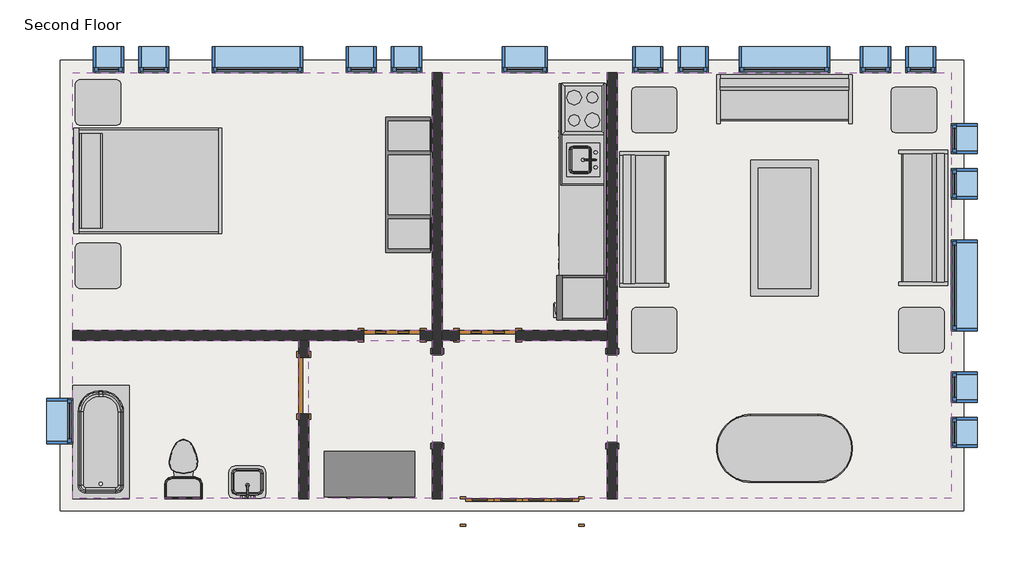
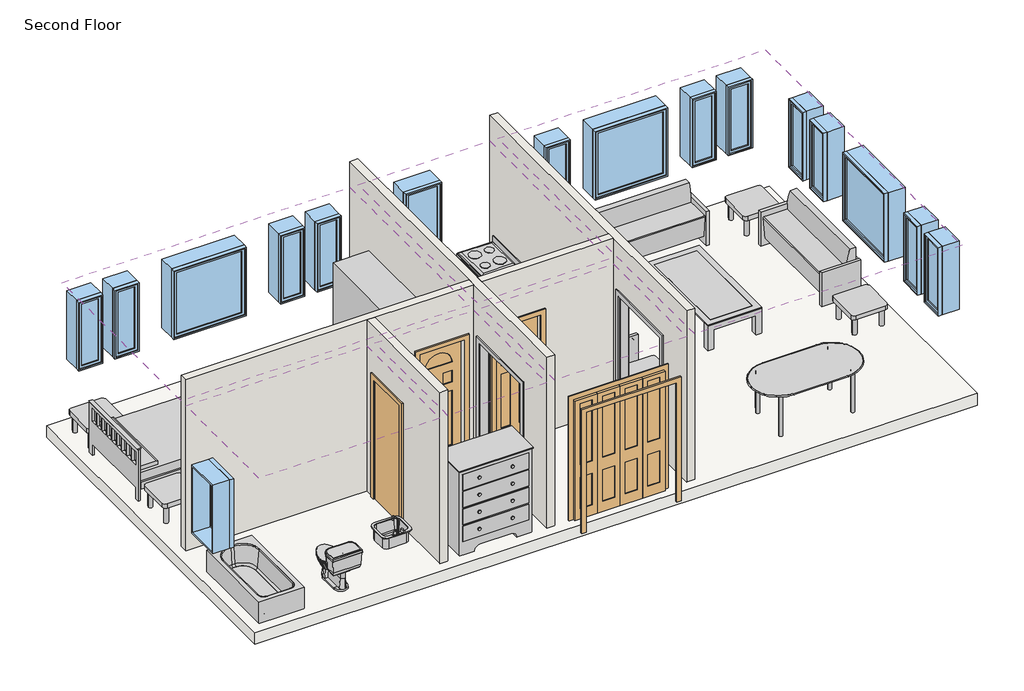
# One storey, incomplete: 17 windows, 15 furniture elements, 6 coverings, 6 proxies, 4 doors, 4 flow terminals, 4 walls, 1 slab.
"""IFC4 building model written with IfcOpenShell, lengths in millimetres."""

from ifc_helpers import new_model, si_unit, frame, origin, place, context, project, spatial, polyline, outline, extrude, faceted_brep, transform, mapped, element, save
from components import m_cook_top_4_unit2_0615_x_500mm_249f3515, m_dishwasher_610_x_610_x_875mm_54ecfc4c, m_kitchenette_medium_1372mm_e05c6bec, m_passage_opening_cased_1220_x_2134mm_87a8d9c2, m_refrigerator_600_x_660mm_a466bf94, m_bifold_4_panel_1525_x_2134mm_1ddae71f, m_single_decorative_2_0762_x_2134mm_0d0af7cb, m_single_decorative_2_0762_x_2134mm_2fe67c8e, m_single_flush_0762_x_2134mm_0d89e411, m_sink_kitchen_island_450_x_450mm_f969cf2d, m_sink_vanity_square_500_x_440mm_1e229b74, m_toilet_domestic_3d_m_toilet_domestic_3d_5cb52bd4, m_toilet_domestic_3d_m_toilet_domestic_3d_183bbd19, m_tub_rectangular_3d_m_tub_rectangular_3d_3a981ad5, m_bed_shaker_1422_x_1981mm_double_096e7f55, m_counter_top_w_sink_hole_600mm_depth_1fb56bb9, m_dresser_1220_x_1525_x_0610mm_18e1f140, m_entertainment_center_1830_x_1830_x_0610mm_f77a9b93, m_sofa_1830mm_58d08fc1, m_table_coffee_0915_x_1830_x_0457mm_134cd960, m_table_dining_oval_0915_x_1830mm_a7cfbe21, m_table_end_cb6ea12e, m_fixed_0406_x_1220mm_57fee329, m_fixed_0406_x_1220mm_85c28f40, m_fixed_0610_x_1220mm_2c28ef1d, m_fixed_1220_x_1220mm_e08ff7af

model = new_model("IFC4")

# Units and contexts
model_context = context("Model", 3, world=origin())
ifc_project = project(units=[si_unit("LENGTHUNIT", "METRE", prefix="MILLI")], contexts=[model_context])

# Site, building, storey
site = spatial("IfcSite", under=ifc_project)
building = spatial("IfcBuilding", under=site)
storey = spatial("IfcBuildingStorey", under=building, Name="Second Floor", Elevation=3048.0)

# Proxies
placement = place(None, origin())
m_cook_top_4_unit2_0615_x_500mm_shape = m_cook_top_4_unit2_0615_x_500mm_249f3515(model_context)
element("IfcBuildingElementProxy", 1, Name="M_Cook Top-4 Unit2 : 0615 x 500mm", ObjectType="M_Cook Top-4 Unit2 : 0615 x 500mm", at=placement, inside=storey, context=model_context, shape_type="MappedRepresentation", body=[
    mapped(m_cook_top_4_unit2_0615_x_500mm_shape, transform((-8054.9916203, 1914.054661, 3048.0), x_axis=(0.0, -1.0, 0.0), y_axis=(1.0, 0.0, 0.0), z_axis=(0.0, 0.0, 1.0))),
])
m_dishwasher_610_x_610_x_875mm_shape = m_dishwasher_610_x_610_x_875mm_54ecfc4c(model_context)
element("IfcBuildingElementProxy", 2, Name="M_Dishwasher : 610 x 610 x 875mm", ObjectType="M_Dishwasher : 610 x 610 x 875mm", at=placement, inside=storey, context=model_context, shape_type="MappedRepresentation", body=[
    mapped(m_dishwasher_610_x_610_x_875mm_shape, transform((-8321.6411851, 353.5721295, 3048.0), x_axis=(0.0, -1.0, 0.0), y_axis=(1.0, 0.0, 0.0), z_axis=(0.0, 0.0, 1.0))),
])
m_kitchenette_medium_1372mm_shape = m_kitchenette_medium_1372mm_e05c6bec(model_context)
element("IfcBuildingElementProxy", 3, Name="M_Kitchenette - Medium : 1372mm", ObjectType="M_Kitchenette - Medium : 1372mm", at=placement, inside=storey, context=model_context, shape_type="MappedRepresentation", body=[
    mapped(m_kitchenette_medium_1372mm_shape, transform((-7749.9916203, 1589.7923659, 3048.0), x_axis=(0.0, -1.0, 0.0), y_axis=(1.0, 0.0, 0.0), z_axis=(0.0, 0.0, 1.0))),
])
m_passage_opening_cased_1220_x_2134mm_shape = m_passage_opening_cased_1220_x_2134mm_87a8d9c2(model_context)
element("IfcBuildingElementProxy", 4, Name="M_Passage Opening-Cased : 1220 x 2134mm", ObjectType="M_Passage Opening-Cased : 1220 x 2134mm", at=placement, inside=storey, context=model_context, shape_type="MappedRepresentation", body=[
    mapped(m_passage_opening_cased_1220_x_2134mm_shape, transform((-7665.3416203, -1982.6925047, 3048.0), x_axis=(0.0, 1.0, 0.0), y_axis=(-1.0, 0.0, 0.0), z_axis=(0.0, 0.0, 1.0))),
])
element("IfcBuildingElementProxy", 5, Name="M_Passage Opening-Cased : 1220 x 2134mm", ObjectType="M_Passage Opening-Cased : 1220 x 2134mm", at=placement, inside=storey, context=model_context, shape_type="MappedRepresentation", body=[
    mapped(m_passage_opening_cased_1220_x_2134mm_shape, transform((-10019.0916203, -1999.0698181, 3048.0), x_axis=(0.0, -1.0, 0.0), y_axis=(1.0, 0.0, 0.0), z_axis=(0.0, 0.0, 1.0))),
])
m_refrigerator_600_x_660mm_shape = m_refrigerator_600_x_660mm_a466bf94(model_context)
element("IfcBuildingElementProxy", 6, Name="M_Refrigerator : 600 x 660mm", ObjectType="M_Refrigerator : 600 x 660mm", at=placement, inside=storey, context=model_context, shape_type="MappedRepresentation", body=[
    mapped(m_refrigerator_600_x_660mm_shape, transform((-8046.2067105, -687.7464817, 3048.0), x_axis=(0.0, -1.0, 0.0), y_axis=(1.0, 0.0, 0.0), z_axis=(0.0, 0.0, 1.0))),
])

# Coverings
element("IfcCovering", 7, ObjectType="Plain", at=placement, inside=storey, context=model_context, shape_type="SweptSolid", body=[
    extrude(outline(polyline([(-14935.3416203, 2406.1188386), (-10086.8416203, 2406.1188386), (-10086.8416203, -1070.3811614), (-14935.3416203, -1070.3811614), (-14935.3416203, 2406.1188386)])), frame((0.0, 0.0, 5638.0), z_axis=(0.0, 0.0, 1.0), x_axis=(1.0, 0.0, 0.0)), (0.0, 0.0, 1.0), 57.0),
])
element("IfcCovering", 8, ObjectType="Plain", at=placement, inside=storey, context=model_context, shape_type="SweptSolid", body=[
    extrude(outline(polyline([(-9951.3416203, -1070.3811614), (-9951.3416203, 2406.1188386), (-7733.0916203, 2406.1188386), (-7733.0916203, -1070.3811614), (-9951.3416203, -1070.3811614)])), frame((0.0, 0.0, 5638.0), z_axis=(0.0, 0.0, 1.0), x_axis=(1.0, 0.0, 0.0)), (0.0, 0.0, 1.0), 57.0),
])
element("IfcCovering", 9, ObjectType="Plain", at=placement, inside=storey, context=model_context, shape_type="SweptSolid", body=[
    extrude(outline(polyline([(-7597.5916203, -3339.8811614), (-7597.5916203, 2406.1188386), (-3093.3416203, 2406.1188386), (-3093.3416203, -3339.8811614), (-7597.5916203, -3339.8811614)])), frame((0.0, 0.0, 5638.0), z_axis=(0.0, 0.0, 1.0), x_axis=(1.0, 0.0, 0.0)), (0.0, 0.0, 1.0), 57.0),
])
element("IfcCovering", 10, ObjectType="Plain", at=placement, inside=storey, context=model_context, shape_type="SweptSolid", body=[
    extrude(outline(polyline([(-7733.0916203, -3339.8811614), (-9951.3416203, -3339.8811614), (-9951.3416203, -1205.8811614), (-7733.0916203, -1205.8811614), (-7733.0916203, -3339.8811614)])), frame((0.0, 0.0, 5638.0), z_axis=(0.0, 0.0, 1.0), x_axis=(1.0, 0.0, 0.0)), (0.0, 0.0, 1.0), 57.0),
])
element("IfcCovering", 11, ObjectType="Plain", at=placement, inside=storey, context=model_context, shape_type="SweptSolid", body=[
    extrude(outline(polyline([(-11887.3416203, -1205.8811614), (-11887.3416203, -3339.8811614), (-14935.3416203, -3339.8811614), (-14935.3416203, -1205.8811614), (-11887.3416203, -1205.8811614)])), frame((0.0, 0.0, 5638.0), z_axis=(0.0, 0.0, 1.0), x_axis=(1.0, 0.0, 0.0)), (0.0, 0.0, 1.0), 57.0),
])
element("IfcCovering", 12, ObjectType="Plain", at=placement, inside=storey, context=model_context, shape_type="SweptSolid", body=[
    extrude(outline(polyline([(-10086.8416203, -3339.8811614), (-11751.8416203, -3339.8811614), (-11751.8416203, -1205.8811614), (-10086.8416203, -1205.8811614), (-10086.8416203, -3339.8811614)])), frame((0.0, 0.0, 5638.0), z_axis=(0.0, 0.0, 1.0), x_axis=(1.0, 0.0, 0.0)), (0.0, 0.0, 1.0), 57.0),
])

# Doors
m_bifold_4_panel_1525_x_2134mm_shape = m_bifold_4_panel_1525_x_2134mm_1ddae71f(model_context)
element("IfcDoor", 13, ObjectType="M_Bifold-4 Panel : 1525 x 2134mm", at=placement, inside=storey, context=model_context, shape_type="MappedRepresentation", body=[
    mapped(m_bifold_4_panel_1525_x_2134mm_shape, transform((-8876.0916203, -3514.8811614, 3048.0), x_axis=(1.0, 0.0, 0.0), y_axis=(0.0, 1.0, 0.0), z_axis=(0.0, 0.0, 1.0))),
])
m_single_decorative_2_0762_x_2134mm_shape = m_single_decorative_2_0762_x_2134mm_0d0af7cb(model_context)
element("IfcDoor", 14, ObjectType="M_Single-Decorative 2 : 0762 x 2134mm", at=placement, inside=storey, context=model_context, shape_type="MappedRepresentation", body=[
    mapped(m_single_decorative_2_0762_x_2134mm_shape, transform((-9342.3416203, -1138.1311614, 3048.0), x_axis=(-1.0, 0.0, 0.0), y_axis=(0.0, -1.0, 0.0), z_axis=(0.0, 0.0, 1.0))),
])
m_single_decorative_2_0762_x_2134mm_2_shape = m_single_decorative_2_0762_x_2134mm_2fe67c8e(model_context)
element("IfcDoor", 15, ObjectType="M_Single-Decorative 2 : 0762 x 2134mm", at=placement, inside=storey, context=model_context, shape_type="MappedRepresentation", body=[
    mapped(m_single_decorative_2_0762_x_2134mm_2_shape, transform((-10629.0916203, -1138.1311614, 3048.0), x_axis=(1.0, 0.0, 0.0), y_axis=(0.0, 1.0, 0.0), z_axis=(0.0, 0.0, 1.0))),
])
m_single_flush_0762_x_2134mm_shape = m_single_flush_0762_x_2134mm_0d89e411(model_context)
element("IfcDoor", 16, ObjectType="M_Single-Flush : 0762 x 2134mm", at=placement, inside=storey, context=model_context, shape_type="MappedRepresentation", body=[
    mapped(m_single_flush_0762_x_2134mm_shape, transform((-11819.5916203, -1815.8811614, 3048.0), x_axis=(0.0, 1.0, 0.0), y_axis=(-1.0, 0.0, 0.0), z_axis=(0.0, 0.0, 1.0))),
])

# Flow terminals
m_sink_kitchen_island_450_x_450mm_shape = m_sink_kitchen_island_450_x_450mm_f969cf2d(model_context)
element("IfcFlowTerminal", 17, ObjectType="M_Sink Kitchen-Island : 450 x 450mm", at=placement, inside=storey, context=model_context, shape_type="MappedRepresentation", body=[
    mapped(m_sink_kitchen_island_450_x_450mm_shape, transform((-8057.3370214, 1243.7439015, 3048.0), x_axis=(0.0, -1.0, 0.0), y_axis=(1.0, 0.0, 0.0), z_axis=(0.0, 0.0, 1.0))),
])
m_sink_vanity_square_500_x_440mm_shape = m_sink_vanity_square_500_x_440mm_1e229b74(model_context)
element("IfcFlowTerminal", 18, ObjectType="M_Sink Vanity-Square : 500 x 440mm", at=placement, inside=storey, context=model_context, shape_type="MappedRepresentation", body=[
    mapped(m_sink_vanity_square_500_x_440mm_shape, transform((-12563.5523798, -3158.1107603, 3048.0), x_axis=(-1.0, 0.0, 0.0), y_axis=(0.0, -1.0, 0.0), z_axis=(0.0, 0.0, 1.0))),
])
m_toilet_domestic_3d_m_toilet_domestic_3d_shape = m_toilet_domestic_3d_m_toilet_domestic_3d_5cb52bd4(model_context)
m_toilet_domestic_3d_m_toilet_domestic_3d_2_shape = m_toilet_domestic_3d_m_toilet_domestic_3d_183bbd19(model_context)
element("IfcFlowTerminal", 19, ObjectType="M_Toilet-Domestic-3D : M_Toilet-Domestic-3D", at=placement, inside=storey, context=model_context, shape_type="MappedRepresentation", body=[
    mapped(m_toilet_domestic_3d_m_toilet_domestic_3d_shape, transform((-13440.7376477, -2845.185134, 3048.0), x_axis=(-1.0000000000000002, 0.0, 0.0), y_axis=(0.0, -1.0000000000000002, 0.0), z_axis=(0.0, 0.0, 1.0))),
    mapped(m_toilet_domestic_3d_m_toilet_domestic_3d_2_shape, transform((-13440.7376477, -2845.185134, 3048.0), x_axis=(-1.0000000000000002, 0.0, 0.0), y_axis=(0.0, -1.0000000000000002, 0.0), z_axis=(0.0, 0.0, 1.0))),
])
m_tub_rectangular_3d_m_tub_rectangular_3d_shape = m_tub_rectangular_3d_m_tub_rectangular_3d_3a981ad5(model_context)
element("IfcFlowTerminal", 20, ObjectType="M_Tub-Rectangular-3D : M_Tub-Rectangular-3D", at=placement, inside=storey, context=model_context, shape_type="MappedRepresentation", body=[
    mapped(m_tub_rectangular_3d_m_tub_rectangular_3d_shape, transform((-15110.3416203, -2229.2781927, 3048.0), x_axis=(0.0, 1.0, 0.0), y_axis=(-1.0, 0.0, 0.0), z_axis=(0.0, 0.0, 1.0))),
])

# Furniture
m_bed_shaker_1422_x_1981mm_double_shape = m_bed_shaker_1422_x_1981mm_double_096e7f55(model_context)
element("IfcFurniture", 21, ObjectType="M_Bed-Shaker : 1422 x 1981mm - Double", at=placement, inside=storey, context=model_context, shape_type="MappedRepresentation", body=[
    mapped(m_bed_shaker_1422_x_1981mm_double_shape, transform((-14905.3416203, 963.9688386, 3048.0), x_axis=(0.0, 1.0000000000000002, 0.0), y_axis=(-1.0000000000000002, 0.0, 0.0), z_axis=(0.0, 0.0, 1.0))),
])
m_counter_top_w_sink_hole_600mm_depth_shape = m_counter_top_w_sink_hole_600mm_depth_1fb56bb9(model_context)
element("IfcFurniture", 22, ObjectType="M_Counter Top w Sink Hole : 600mm Depth", at=placement, inside=storey, context=model_context, shape_type="MappedRepresentation", body=[
    mapped(m_counter_top_w_sink_hole_600mm_depth_shape, transform((-7749.9916203, 1056.5923659, 3048.0), x_axis=(0.0, -1.0, 0.0), y_axis=(1.0, 0.0, 0.0), z_axis=(0.0, 0.0, 1.0))),
])
m_dresser_1220_x_1525_x_0610mm_shape = m_dresser_1220_x_1525_x_0610mm_18e1f140(model_context)
element("IfcFurniture", 23, ObjectType="M_Dresser : 1220 x 1525 x 0610mm", at=placement, inside=storey, context=model_context, shape_type="MappedRepresentation", body=[
    mapped(m_dresser_1220_x_1525_x_0610mm_shape, transform((-10667.6483605, -2647.7182073, 3048.0), x_axis=(1.0, 0.0, 0.0), y_axis=(0.0, 1.0, 0.0), z_axis=(0.0, 0.0, 1.0))),
])
m_entertainment_center_1830_x_1830_x_0610mm_shape = m_entertainment_center_1830_x_1830_x_0610mm_f77a9b93(model_context)
element("IfcFurniture", 24, ObjectType="M_Entertainment center : 1830 x 1830 x 0610mm", at=placement, inside=storey, context=model_context, shape_type="MappedRepresentation", body=[
    mapped(m_entertainment_center_1830_x_1830_x_0610mm_shape, transform((-10818.2416203, 891.1188386, 3048.0), x_axis=(0.0, 1.0, 0.0), y_axis=(-1.0, 0.0, 0.0), z_axis=(0.0, 0.0, 1.0))),
])
m_sofa_1830mm_shape = m_sofa_1830mm_58d08fc1(model_context)
element("IfcFurniture", 25, ObjectType="M_Sofa : 1830mm", at=placement, inside=storey, context=model_context, shape_type="MappedRepresentation", body=[
    mapped(m_sofa_1830mm_shape, transform((-5413.7121121, 1899.9647403, 3048.0), x_axis=(1.0, 0.0, 0.0), y_axis=(0.0, 1.0, 0.0), z_axis=(0.0, 0.0, 1.0))),
])
element("IfcFurniture", 26, ObjectType="M_Sofa : 1830mm", at=placement, inside=storey, context=model_context, shape_type="MappedRepresentation", body=[
    mapped(m_sofa_1830mm_shape, transform((-3617.1736471, 517.2688343, 3048.0), x_axis=(0.0, -1.0, 0.0), y_axis=(1.0, 0.0, 0.0), z_axis=(0.0, 0.0, 1.0))),
])
element("IfcFurniture", 27, ObjectType="M_Sofa : 1830mm", at=placement, inside=storey, context=model_context, shape_type="MappedRepresentation", body=[
    mapped(m_sofa_1830mm_shape, transform((-7088.437522, 355.7483468, 3048.0), x_axis=(0.0, 1.0, 0.0), y_axis=(-1.0, 0.0, 0.0), z_axis=(0.0, 0.0, 1.0))),
])
m_table_coffee_0915_x_1830_x_0457mm_shape = m_table_coffee_0915_x_1830_x_0457mm_134cd960(model_context)
element("IfcFurniture", 28, ObjectType="M_Table-Coffee : 0915 x 1830 x 0457mm", at=placement, inside=storey, context=model_context, shape_type="MappedRepresentation", body=[
    mapped(m_table_coffee_0915_x_1830_x_0457mm_shape, transform((-5248.1305425, 287.8530719, 3048.0), x_axis=(0.0, 1.0, 0.0), y_axis=(-1.0, 0.0, 0.0), z_axis=(0.0, 0.0, 1.0))),
])
m_table_dining_oval_0915_x_1830mm_shape = m_table_dining_oval_0915_x_1830mm_a7cfbe21(model_context)
element("IfcFurniture", 29, ObjectType="M_Table-Dining Oval : 0915 x 1830mm", at=placement, inside=storey, context=model_context, shape_type="MappedRepresentation", body=[
    mapped(m_table_dining_oval_0915_x_1830mm_shape, transform((-4941.5219482, -2305.2828007, 3048.0), x_axis=(1.0, 0.0, 0.0), y_axis=(0.0, 1.0, 0.0), z_axis=(0.0, 0.0, 1.0))),
])
m_table_end_shape = m_table_end_cb6ea12e(model_context)
element("IfcFurniture", 30, ObjectType="M_Table-End : 0610 x 0160mm altered height", at=placement, inside=storey, context=model_context, shape_type="MappedRepresentation", body=[
    mapped(m_table_end_shape, transform((-7407.0752506, 1748.7188386, 3048.0), x_axis=(1.0, 0.0, 0.0), y_axis=(0.0, 1.0, 0.0), z_axis=(0.0, 0.0, 1.0))),
])
element("IfcFurniture", 31, ObjectType="M_Table-End : 0610 x 0160mm altered height", at=placement, inside=storey, context=model_context, shape_type="MappedRepresentation", body=[
    mapped(m_table_end_shape, transform((-3907.0752506, 1748.7188386, 3048.0), x_axis=(1.0, 0.0, 0.0), y_axis=(0.0, 1.0, 0.0), z_axis=(0.0, 0.0, 1.0))),
])
element("IfcFurniture", 32, ObjectType="M_Table-End : 0610 x 0160mm altered height", at=placement, inside=storey, context=model_context, shape_type="MappedRepresentation", body=[
    mapped(m_table_end_shape, transform((-3807.0752506, -1222.7811614, 3048.0), x_axis=(1.0, 0.0, 0.0), y_axis=(0.0, 1.0, 0.0), z_axis=(0.0, 0.0, 1.0))),
])
element("IfcFurniture", 33, ObjectType="M_Table-End : 0610 x 0160mm altered height", at=placement, inside=storey, context=model_context, shape_type="MappedRepresentation", body=[
    mapped(m_table_end_shape, transform((-7407.0752506, -1222.7811614, 3048.0), x_axis=(1.0, 0.0, 0.0), y_axis=(0.0, 1.0, 0.0), z_axis=(0.0, 0.0, 1.0))),
])
element("IfcFurniture", 34, ObjectType="M_Table-End : 0610 x 0160mm altered height", at=placement, inside=storey, context=model_context, shape_type="MappedRepresentation", body=[
    mapped(m_table_end_shape, transform((-14899.0752506, -351.2811614, 3048.0), x_axis=(1.0, 0.0, 0.0), y_axis=(0.0, 1.0, 0.0), z_axis=(0.0, 0.0, 1.0))),
])
element("IfcFurniture", 35, ObjectType="M_Table-End : 0610 x 0160mm altered height", at=placement, inside=storey, context=model_context, shape_type="MappedRepresentation", body=[
    mapped(m_table_end_shape, transform((-14899.0752506, 1848.7188386, 3048.0), x_axis=(1.0, 0.0, 0.0), y_axis=(0.0, 1.0, 0.0), z_axis=(0.0, 0.0, 1.0))),
])

# Slab
element("IfcSlab", 36, ObjectType="160mm Concrete With 50mm Metal Deck", at=placement, inside=storey, context=model_context, shape_type="SweptSolid", body=[
    extrude(outline(polyline([(-2928.3416203, 2571.1188386), (-2928.3416203, -3504.8811614), (-15100.3416203, -3504.8811614), (-15100.3416203, 2571.1188386), (-2928.3416203, 2571.1188386)])), frame((0.0, 0.0, 2838.0), z_axis=(0.0, 0.0, 1.0), x_axis=(1.0, 0.0, 0.0)), (0.0, 0.0, 1.0), 210.0),
])

# Walls
element("IfcWall", 37, ObjectType="Interior - 135mm Partition (2-hr)", at=placement, inside=storey, context=model_context, shape_type="Brep", body=[
    faceted_brep([(-7733.0916203, 2406.1188386, 3048.0), (-7733.0916203, -1070.3811614, 3048.0), (-7733.0916203, -1205.8811614, 3048.0), (-7733.0916203, -1380.8811614, 3048.0), (-7733.0916203, -1380.8811614, 5182.0), (-7733.0916203, -2600.8811614, 5182.0), (-7733.0916203, -2600.8811614, 3048.0), (-7733.0916203, -3339.8811614, 3048.0), (-7733.0916203, -3339.8811614, 6096.0), (-7733.0916203, -1205.8811614, 6096.0), (-7733.0916203, -1070.3811614, 6096.0), (-7733.0916203, 2406.1188386, 6096.0), (-7597.5916203, -1380.8811614, 5182.0), (-7597.5916203, -1380.8811614, 3048.0), (-7597.5916203, 2406.1188386, 3048.0), (-7597.5916203, 2406.1188386, 6096.0), (-7597.5916203, -3339.8811614, 6096.0), (-7597.5916203, -3339.8811614, 3048.0), (-7597.5916203, -2600.8811614, 3048.0), (-7597.5916203, -2600.8811614, 5182.0)], [[[0, 1, 2, 3, 4, 5, 6, 7, 8, 9, 10, 11]], [[12, 13, 14, 15, 16, 17, 18, 19]], [[18, 17, 7, 6]], [[14, 13, 3, 2, 1, 0]], [[11, 10, 9, 8, 16, 15]], [[6, 5, 19, 18]], [[4, 3, 13, 12]], [[5, 4, 12, 19]], [[0, 11, 15, 14]], [[8, 7, 17, 16]]]),
])
element("IfcWall", 38, ObjectType="Interior - 135mm Partition (2-hr)", at=placement, inside=storey, context=model_context, shape_type="Brep", body=[
    faceted_brep([(-10086.8416203, -2600.8811614, 5182.0), (-10086.8416203, -2600.8811614, 3048.0), (-10086.8416203, -3339.8811614, 3048.0), (-10086.8416203, -3339.8811614, 6096.0), (-10086.8416203, -1205.8811614, 6096.0), (-10086.8416203, -1070.3811614, 6096.0), (-10086.8416203, 2406.1188386, 6096.0), (-10086.8416203, 2406.1188386, 3048.0), (-10086.8416203, -1070.3811614, 3048.0), (-10086.8416203, -1205.8811614, 3048.0), (-10086.8416203, -1380.8811614, 3048.0), (-10086.8416203, -1380.8811614, 5182.0), (-9951.3416203, -3339.8811614, 3048.0), (-9951.3416203, -2600.8811614, 3048.0), (-9951.3416203, -2600.8811614, 5182.0), (-9951.3416203, -1380.8811614, 5182.0), (-9951.3416203, -1380.8811614, 3048.0), (-9951.3416203, -1205.8811614, 3048.0), (-9951.3416203, -1070.3811614, 3048.0), (-9951.3416203, 2406.1188386, 3048.0), (-9951.3416203, 2406.1188386, 6096.0), (-9951.3416203, -1070.3811614, 6096.0), (-9951.3416203, -1205.8811614, 6096.0), (-9951.3416203, -3339.8811614, 6096.0)], [[[0, 1, 2, 3, 4, 5, 6, 7, 8, 9, 10, 11]], [[12, 13, 14, 15, 16, 17, 18, 19, 20, 21, 22, 23]], [[2, 1, 13, 12]], [[10, 9, 8, 7, 19, 18, 17, 16]], [[6, 5, 4, 3, 23, 22, 21, 20]], [[16, 15, 11, 10]], [[14, 13, 1, 0]], [[15, 14, 0, 11]], [[7, 6, 20, 19]], [[3, 2, 12, 23]]]),
])
element("IfcWall", 39, ObjectType="Interior - 135mm Partition (2-hr)", at=placement, inside=storey, context=model_context, shape_type="Brep", body=[
    faceted_brep([(-7733.0916203, -1205.8811614, 3048.0), (-7733.0916203, -1205.8811614, 6096.0), (-9951.3416203, -1205.8811614, 6096.0), (-9951.3416203, -1205.8811614, 3048.0), (-9723.3416203, -1205.8811614, 3048.0), (-9723.3416203, -1205.8811614, 5182.0), (-8961.3416203, -1205.8811614, 5182.0), (-8961.3416203, -1205.8811614, 3048.0), (-7733.0916203, -1070.3811614, 6096.0), (-7733.0916203, -1070.3811614, 3048.0), (-8961.3416203, -1070.3811614, 3048.0), (-8961.3416203, -1070.3811614, 5182.0), (-9723.3416203, -1070.3811614, 5182.0), (-9723.3416203, -1070.3811614, 3048.0), (-9951.3416203, -1070.3811614, 3048.0), (-9951.3416203, -1070.3811614, 6096.0)], [[[0, 1, 2, 3, 4, 5, 6, 7]], [[8, 9, 10, 11, 12, 13, 14, 15]], [[9, 0, 7, 10]], [[13, 4, 3, 14]], [[1, 8, 15, 2]], [[1, 0, 9, 8]], [[3, 2, 15, 14]], [[5, 4, 13, 12]], [[6, 5, 12, 11]], [[7, 6, 11, 10]]]),
    faceted_brep([(-10248.0916203, -1205.8811614, 5182.0), (-10248.0916203, -1205.8811614, 3048.0), (-10086.8416203, -1205.8811614, 3048.0), (-10086.8416203, -1205.8811614, 6096.0), (-11751.8416203, -1205.8811614, 6096.0), (-11887.3416203, -1205.8811614, 6096.0), (-14935.3416203, -1205.8811614, 6096.0), (-14935.3416203, -1205.8811614, 3048.0), (-11887.3416203, -1205.8811614, 3048.0), (-11751.8416203, -1205.8811614, 3048.0), (-11010.0916203, -1205.8811614, 3048.0), (-11010.0916203, -1205.8811614, 5182.0), (-10248.0916203, -1070.3811614, 3048.0), (-10248.0916203, -1070.3811614, 5182.0), (-11010.0916203, -1070.3811614, 5182.0), (-11010.0916203, -1070.3811614, 3048.0), (-14935.3416203, -1070.3811614, 3048.0), (-14935.3416203, -1070.3811614, 6096.0), (-10086.8416203, -1070.3811614, 6096.0), (-10086.8416203, -1070.3811614, 3048.0)], [[[0, 1, 2, 3, 4, 5, 6, 7, 8, 9, 10, 11]], [[12, 13, 14, 15, 16, 17, 18, 19]], [[1, 12, 19, 2]], [[15, 10, 9, 8, 7, 16]], [[17, 6, 5, 4, 3, 18]], [[3, 2, 19, 18]], [[13, 12, 1, 0]], [[14, 13, 0, 11]], [[15, 14, 11, 10]], [[7, 6, 17, 16]]]),
])
element("IfcWall", 40, ObjectType="Interior - 135mm Partition (2-hr)", at=placement, inside=storey, context=model_context, shape_type="SweptSolid", body=[
    extrude(outline(polyline([(-1205.8811614, 3048.0), (-1434.8811614, 3048.0), (-1434.8811614, 5182.0), (-2196.8811614, 5182.0), (-2196.8811614, 3048.0), (-3339.8811614, 3048.0), (-3339.8811614, 6096.0), (-1205.8811614, 6096.0), (-1205.8811614, 3048.0)])), frame((-11887.3416203, 0.0, 0.0), z_axis=(1.0, 0.0, 0.0), x_axis=(0.0, 1.0, 0.0)), (0.0, 0.0, 1.0), 135.5),
])

# Windows
m_fixed_0406_x_1220mm_shape = m_fixed_0406_x_1220mm_57fee329(model_context)
element("IfcWindow", 41, ObjectType="M_Fixed : 0406 x 1220mm", at=placement, inside=storey, context=model_context, shape_type="MappedRepresentation", body=[
    mapped(m_fixed_0406_x_1220mm_shape, transform((-14450.3416203, 2594.1188386, 3048.0), x_axis=(-1.0, 0.0, 0.0), y_axis=(0.0, -1.0, 0.0), z_axis=(0.0, 0.0, 1.0))),
])
element("IfcWindow", 42, ObjectType="M_Fixed : 0406 x 1220mm", at=placement, inside=storey, context=model_context, shape_type="MappedRepresentation", body=[
    mapped(m_fixed_0406_x_1220mm_shape, transform((-13840.3416203, 2594.1188386, 3048.0), x_axis=(-1.0, 0.0, 0.0), y_axis=(0.0, -1.0, 0.0), z_axis=(0.0, 0.0, 1.0))),
])
element("IfcWindow", 43, ObjectType="M_Fixed : 0406 x 1220mm", at=placement, inside=storey, context=model_context, shape_type="MappedRepresentation", body=[
    mapped(m_fixed_0406_x_1220mm_shape, transform((-7183.3416203, 2594.1188386, 3048.0), x_axis=(-1.0, 0.0, 0.0), y_axis=(0.0, -1.0, 0.0), z_axis=(0.0, 0.0, 1.0))),
])
element("IfcWindow", 44, ObjectType="M_Fixed : 0406 x 1220mm", at=placement, inside=storey, context=model_context, shape_type="MappedRepresentation", body=[
    mapped(m_fixed_0406_x_1220mm_shape, transform((-6573.3416203, 2594.1188386, 3048.0), x_axis=(-1.0, 0.0, 0.0), y_axis=(0.0, -1.0, 0.0), z_axis=(0.0, 0.0, 1.0))),
])
element("IfcWindow", 45, ObjectType="M_Fixed : 0406 x 1220mm", at=placement, inside=storey, context=model_context, shape_type="MappedRepresentation", body=[
    mapped(m_fixed_0406_x_1220mm_shape, transform((-2905.3416203, 1514.1188386, 3048.0), x_axis=(0.0, 1.0, 0.0), y_axis=(-1.0, 0.0, 0.0), z_axis=(0.0, 0.0, 1.0))),
])
element("IfcWindow", 46, ObjectType="M_Fixed : 0406 x 1220mm", at=placement, inside=storey, context=model_context, shape_type="MappedRepresentation", body=[
    mapped(m_fixed_0406_x_1220mm_shape, transform((-2905.3416203, 904.1188386, 3048.0), x_axis=(0.0, 1.0, 0.0), y_axis=(-1.0, 0.0, 0.0), z_axis=(0.0, 0.0, 1.0))),
])
m_fixed_0406_x_1220mm_2_shape = m_fixed_0406_x_1220mm_85c28f40(model_context)
element("IfcWindow", 47, ObjectType="M_Fixed : 0406 x 1220mm", at=placement, inside=storey, context=model_context, shape_type="MappedRepresentation", body=[
    mapped(m_fixed_0406_x_1220mm_2_shape, transform((-10436.3416203, 2594.1188386, 3048.0), x_axis=(1.0, 0.0, 0.0), y_axis=(0.0, 1.0, 0.0), z_axis=(0.0, 0.0, 1.0))),
])
element("IfcWindow", 48, ObjectType="M_Fixed : 0406 x 1220mm", at=placement, inside=storey, context=model_context, shape_type="MappedRepresentation", body=[
    mapped(m_fixed_0406_x_1220mm_2_shape, transform((-11046.3416203, 2594.1188386, 3048.0), x_axis=(1.0, 0.0, 0.0), y_axis=(0.0, 1.0, 0.0), z_axis=(0.0, 0.0, 1.0))),
])
element("IfcWindow", 49, ObjectType="M_Fixed : 0406 x 1220mm", at=placement, inside=storey, context=model_context, shape_type="MappedRepresentation", body=[
    mapped(m_fixed_0406_x_1220mm_2_shape, transform((-3507.5916203, 2594.1188386, 3048.0), x_axis=(1.0, 0.0, 0.0), y_axis=(0.0, 1.0, 0.0), z_axis=(0.0, 0.0, 1.0))),
])
element("IfcWindow", 50, ObjectType="M_Fixed : 0406 x 1220mm", at=placement, inside=storey, context=model_context, shape_type="MappedRepresentation", body=[
    mapped(m_fixed_0406_x_1220mm_2_shape, transform((-4117.5916203, 2594.1188386, 3048.0), x_axis=(1.0, 0.0, 0.0), y_axis=(0.0, 1.0, 0.0), z_axis=(0.0, 0.0, 1.0))),
])
element("IfcWindow", 51, ObjectType="M_Fixed : 0406 x 1220mm", at=placement, inside=storey, context=model_context, shape_type="MappedRepresentation", body=[
    mapped(m_fixed_0406_x_1220mm_2_shape, transform((-2905.3416203, -2447.8811614, 3048.0), x_axis=(0.0, -1.0, 0.0), y_axis=(1.0, 0.0, 0.0), z_axis=(0.0, 0.0, 1.0))),
])
element("IfcWindow", 52, ObjectType="M_Fixed : 0406 x 1220mm", at=placement, inside=storey, context=model_context, shape_type="MappedRepresentation", body=[
    mapped(m_fixed_0406_x_1220mm_2_shape, transform((-2905.3416203, -1837.8811614, 3048.0), x_axis=(0.0, -1.0, 0.0), y_axis=(1.0, 0.0, 0.0), z_axis=(0.0, 0.0, 1.0))),
])
m_fixed_0610_x_1220mm_shape = m_fixed_0610_x_1220mm_2c28ef1d(model_context)
element("IfcWindow", 53, ObjectType="M_Fixed : 0610 x 1220mm", at=placement, inside=storey, context=model_context, shape_type="MappedRepresentation", body=[
    mapped(m_fixed_0610_x_1220mm_shape, transform((-8842.1916203, 2594.1188386, 3048.0), x_axis=(-1.0, 0.0, 0.0), y_axis=(0.0, -1.0, 0.0), z_axis=(0.0, 0.0, 1.0))),
])
element("IfcWindow", 54, ObjectType="M_Fixed : 0610 x 1220mm", at=placement, inside=storey, context=model_context, shape_type="MappedRepresentation", body=[
    mapped(m_fixed_0610_x_1220mm_shape, transform((-15123.3416203, -2294.8811614, 3048.0), x_axis=(0.0, -1.0, 0.0), y_axis=(1.0, 0.0, 0.0), z_axis=(0.0, 0.0, 1.0))),
])
m_fixed_1220_x_1220mm_shape = m_fixed_1220_x_1220mm_e08ff7af(model_context)
element("IfcWindow", 55, ObjectType="M_Fixed : 1220 x 1220mm", at=placement, inside=storey, context=model_context, shape_type="MappedRepresentation", body=[
    mapped(m_fixed_1220_x_1220mm_shape, transform((-12443.3416203, 2594.1188386, 3048.0), x_axis=(-1.0, 0.0, 0.0), y_axis=(0.0, -1.0, 0.0), z_axis=(0.0, 0.0, 1.0))),
])
element("IfcWindow", 56, ObjectType="M_Fixed : 1220 x 1220mm", at=placement, inside=storey, context=model_context, shape_type="MappedRepresentation", body=[
    mapped(m_fixed_1220_x_1220mm_shape, transform((-5345.4666203, 2594.1188386, 3048.0), x_axis=(-1.0, 0.0, 0.0), y_axis=(0.0, -1.0, 0.0), z_axis=(0.0, 0.0, 1.0))),
])
element("IfcWindow", 57, ObjectType="M_Fixed : 1220 x 1220mm", at=placement, inside=storey, context=model_context, shape_type="MappedRepresentation", body=[
    mapped(m_fixed_1220_x_1220mm_shape, transform((-2905.3416203, -466.8811614, 3048.0), x_axis=(0.0, 1.0, 0.0), y_axis=(-1.0, 0.0, 0.0), z_axis=(0.0, 0.0, 1.0))),
])

save(model, "model.ifc")
